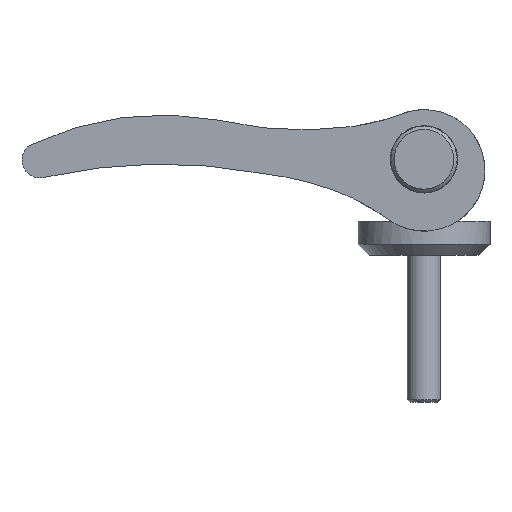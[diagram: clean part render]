
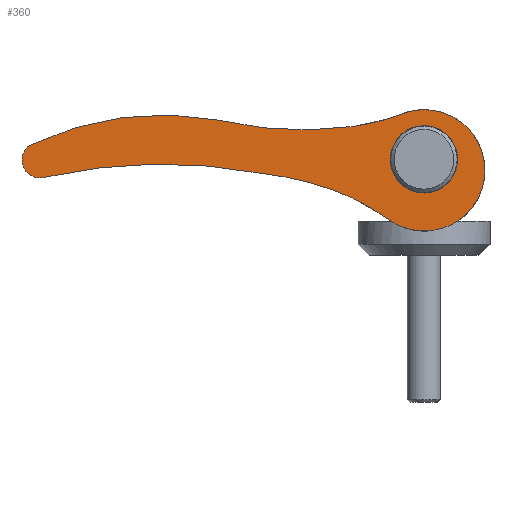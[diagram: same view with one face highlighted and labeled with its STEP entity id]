
A CAD part, front view. The second image highlights one B-rep face of the part: STEP entity #360.
In plain terms, the highlighted planar face has unit normal (0, -1, 0).
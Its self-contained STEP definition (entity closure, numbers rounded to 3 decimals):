
#360=ADVANCED_FACE('',(#581,#583),#585,.F.);
#581=FACE_BOUND('',#582,.T.);
#582=EDGE_LOOP('',(#873,#874,#875,#876,#877,#878,#879,#880,#881,#882));
#583=FACE_BOUND('',#584,.T.);
#584=EDGE_LOOP('',(#883));
#585=PLANE('',#586);
#586=AXIS2_PLACEMENT_3D('',#587,#588,#589);
#587=CARTESIAN_POINT('',(0.,0.,0.));
#588=DIRECTION('',(0.,1.,0.));
#589=DIRECTION('',(-1.,0.,0.));
#873=ORIENTED_EDGE('',*,*,#1040,.F.);
#874=ORIENTED_EDGE('',*,*,#1041,.F.);
#875=ORIENTED_EDGE('',*,*,#1042,.F.);
#876=ORIENTED_EDGE('',*,*,#1043,.F.);
#877=ORIENTED_EDGE('',*,*,#1044,.F.);
#878=ORIENTED_EDGE('',*,*,#1016,.F.);
#879=ORIENTED_EDGE('',*,*,#1013,.F.);
#880=ORIENTED_EDGE('',*,*,#1003,.F.);
#881=ORIENTED_EDGE('',*,*,#1038,.F.);
#882=ORIENTED_EDGE('',*,*,#1045,.F.);
#883=ORIENTED_EDGE('',*,*,#1026,.T.);
#1003=EDGE_CURVE('',#1130,#1132,#1133,.T.);
#1013=EDGE_CURVE('',#1132,#1150,#1151,.T.);
#1016=EDGE_CURVE('',#1150,#1154,#1155,.T.);
#1026=EDGE_CURVE('',#1173,#1173,#1174,.T.);
#1038=EDGE_CURVE('',#1192,#1130,#1193,.T.);
#1040=EDGE_CURVE('',#1195,#1196,#1197,.F.);
#1041=EDGE_CURVE('',#1198,#1195,#1199,.T.);
#1042=EDGE_CURVE('',#1200,#1198,#1201,.T.);
#1043=EDGE_CURVE('',#1202,#1200,#1203,.T.);
#1044=EDGE_CURVE('',#1154,#1202,#1204,.T.);
#1045=EDGE_CURVE('',#1196,#1192,#1205,.T.);
#1130=VERTEX_POINT('',#1761);
#1132=VERTEX_POINT('',#1765);
#1133=CIRCLE('',#1766,20.005);
#1150=VERTEX_POINT('',#1869);
#1151=CIRCLE('',#1870,5.5);
#1154=VERTEX_POINT('',#1924);
#1155=CIRCLE('',#1925,19.991);
#1173=VERTEX_POINT('',#2151);
#1174=CIRCLE('',#2152,3.05);
#1192=VERTEX_POINT('',#2202);
#1193=CIRCLE('',#2203,33.);
#1195=VERTEX_POINT('',#2210);
#1196=VERTEX_POINT('',#2211);
#1197=CIRCLE('',#2212,1.);
#1198=VERTEX_POINT('',#2216);
#1199=CIRCLE('',#2217,1.62);
#1200=VERTEX_POINT('',#2221);
#1201=CIRCLE('',#2222,1.996);
#1202=VERTEX_POINT('',#2226);
#1203=CIRCLE('',#2227,48.246);
#1204=CIRCLE('',#2231,28.);
#1205=CIRCLE('',#2235,27.504);
#1761=CARTESIAN_POINT('',(-6.364,0.,3.075));
#1765=CARTESIAN_POINT('',(-1.889,0.,4.15));
#1766=AXIS2_PLACEMENT_3D('',#1767,#1768,#1769);
#1767=CARTESIAN_POINT('',(-8.766,0.,22.935));
#1768=DIRECTION('',(0.,-1.,0.));
#1769=DIRECTION('',(0.12,0.,-0.993));
#1869=CARTESIAN_POINT('',(-3.325,0.,-5.395));
#1870=AXIS2_PLACEMENT_3D('',#1871,#1872,#1873);
#1871=CARTESIAN_POINT('',(0.002,0.,-1.015));
#1872=DIRECTION('',(0.,1.,0.));
#1873=DIRECTION('',(-0.344,0.,0.939));
#1924=CARTESIAN_POINT('',(-8.314,0.,-2.627));
#1925=AXIS2_PLACEMENT_3D('',#1926,#1927,#1928);
#1926=CARTESIAN_POINT('',(-15.417,0.,-21.314));
#1927=DIRECTION('',(0.,-1.,0.));
#1928=DIRECTION('',(0.605,0.,0.796));
#2151=CARTESIAN_POINT('',(-3.05,0.,-0.015));
#2152=AXIS2_PLACEMENT_3D('',#2153,#2154,#2155);
#2153=CARTESIAN_POINT('',(0.,0.,-0.015));
#2154=DIRECTION('',(0.,1.,0.));
#2155=DIRECTION('',(-1.,0.,0.));
#2202=CARTESIAN_POINT('',(-18.505,0.,3.866));
#2203=AXIS2_PLACEMENT_3D('',#2204,#2205,#2206);
#2204=CARTESIAN_POINT('',(-10.326,0.,35.836));
#2205=DIRECTION('',(0.,-1.,0.));
#2206=DIRECTION('',(-0.248,0.,-0.969));
#2210=CARTESIAN_POINT('',(-35.844,0.,1.757));
#2211=CARTESIAN_POINT('',(-35.594,0.,1.922));
#2212=AXIS2_PLACEMENT_3D('',#2213,#2214,#2215);
#2213=CARTESIAN_POINT('',(-35.175,0.,1.014));
#2214=DIRECTION('',(0.,-1.,0.));
#2215=DIRECTION('',(-0.418,0.,0.908));
#2216=CARTESIAN_POINT('',(-34.35,0.,-1.015));
#2217=AXIS2_PLACEMENT_3D('',#2218,#2219,#2220);
#2218=CARTESIAN_POINT('',(-34.76,0.,0.552));
#2219=DIRECTION('',(0.,1.,0.));
#2220=DIRECTION('',(0.253,0.,-0.967));
#2221=CARTESIAN_POINT('',(-34.245,0.,-0.991));
#2222=AXIS2_PLACEMENT_3D('',#2223,#2224,#2225);
#2223=CARTESIAN_POINT('',(-33.844,0.,-2.946));
#2224=DIRECTION('',(0.,-1.,0.));
#2225=DIRECTION('',(-0.201,0.,0.98));
#2226=CARTESIAN_POINT('',(-14.666,0.,-1.032));
#2227=AXIS2_PLACEMENT_3D('',#2228,#2229,#2230);
#2228=CARTESIAN_POINT('',(-24.555,0.,-48.254));
#2229=DIRECTION('',(0.,-1.,0.));
#2230=DIRECTION('',(0.205,0.,0.979));
#2231=AXIS2_PLACEMENT_3D('',#2232,#2233,#2234);
#2232=CARTESIAN_POINT('',(-18.263,0.,-28.8));
#2233=DIRECTION('',(0.,-1.,0.));
#2234=DIRECTION('',(0.355,0.,0.935));
#2235=AXIS2_PLACEMENT_3D('',#2236,#2237,#2238);
#2236=CARTESIAN_POINT('',(-24.097,0.,-23.063));
#2237=DIRECTION('',(0.,1.,0.));
#2238=DIRECTION('',(-0.418,0.,0.908));
